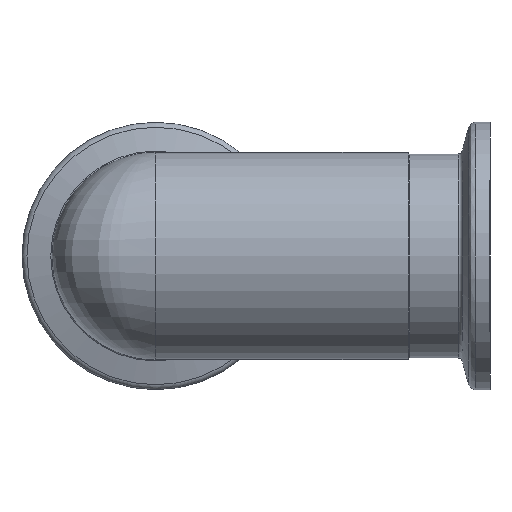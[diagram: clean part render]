
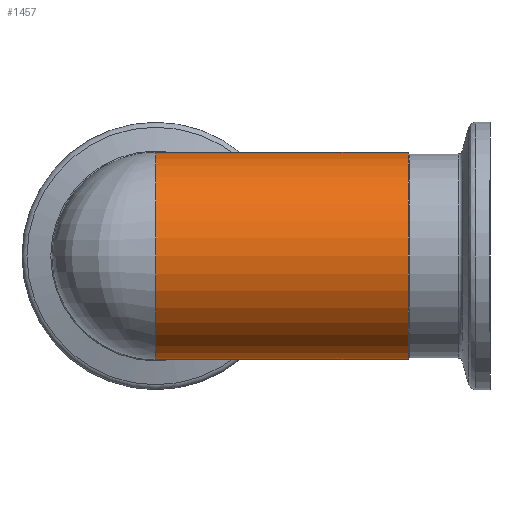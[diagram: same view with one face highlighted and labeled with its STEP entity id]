
A CAD part, left-side view. The second image highlights one B-rep face of the part: STEP entity #1457.
In plain terms, the highlighted cylindrical face has radius 15.5 mm (diameter 31 mm), a full revolution.
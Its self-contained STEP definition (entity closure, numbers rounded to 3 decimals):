
#692=CARTESIAN_POINT('',(-15.5,-37.75,0.));
#693=VERTEX_POINT('',#692);
#694=CARTESIAN_POINT('',(0.,-37.75,0.0));
#695=DIRECTION('',(0.0,1.0,0.0));
#696=DIRECTION('',(1.0,0.0,0.0));
#697=AXIS2_PLACEMENT_3D('',#694,#695,#696);
#698=CIRCLE('',#697,15.5);
#699=EDGE_CURVE('',#693,#693,#698,.T.);
#1409=CARTESIAN_POINT('',(0.,0.,15.5));
#1410=VERTEX_POINT('',#1409);
#1411=CARTESIAN_POINT('',(0.,0.,-15.5));
#1412=VERTEX_POINT('',#1411);
#1413=CARTESIAN_POINT('',(0.0,0.0,0.0));
#1414=DIRECTION('',(0.767,0.642,0.0));
#1415=DIRECTION('',(0.642,-0.767,0.0));
#1416=AXIS2_PLACEMENT_3D('',#1413,#1414,#1415);
#1417=ELLIPSE('',#1416,24.135,15.5);
#1418=EDGE_CURVE('',#1410,#1412,#1417,.T.);
#1430=CARTESIAN_POINT('',(0.,-20.125,0.0));
#1431=DIRECTION('',(0.,-1.0,0.0));
#1432=DIRECTION('',(1.0,0.0,0.0));
#1433=AXIS2_PLACEMENT_3D('',#1430,#1431,#1432);
#1434=CYLINDRICAL_SURFACE('',#1433,15.5);
#1435=ORIENTED_EDGE('',*,*,#699,.T.);
#1436=EDGE_LOOP('',(#1435));
#1437=FACE_OUTER_BOUND('',#1436,.T.);
#1438=ORIENTED_EDGE('',*,*,#1418,.F.);
#1439=CARTESIAN_POINT('',(-15.5,0.,0.));
#1440=VERTEX_POINT('',#1439);
#1441=CARTESIAN_POINT('',(0.,0.,0.0));
#1442=DIRECTION('',(0.0,-1.0,0.0));
#1443=DIRECTION('',(1.0,0.0,0.0));
#1444=AXIS2_PLACEMENT_3D('',#1441,#1442,#1443);
#1445=CIRCLE('',#1444,15.5);
#1446=EDGE_CURVE('',#1410,#1440,#1445,.T.);
#1447=ORIENTED_EDGE('',*,*,#1446,.T.);
#1448=CARTESIAN_POINT('',(0.,0.,0.0));
#1449=DIRECTION('',(0.0,-1.0,0.0));
#1450=DIRECTION('',(1.0,0.0,0.0));
#1451=AXIS2_PLACEMENT_3D('',#1448,#1449,#1450);
#1452=CIRCLE('',#1451,15.5);
#1453=EDGE_CURVE('',#1440,#1412,#1452,.T.);
#1454=ORIENTED_EDGE('',*,*,#1453,.T.);
#1455=EDGE_LOOP('',(#1438,#1447,#1454));
#1456=FACE_BOUND('',#1455,.T.);
#1457=ADVANCED_FACE('',(#1437,#1456),#1434,.T.);
